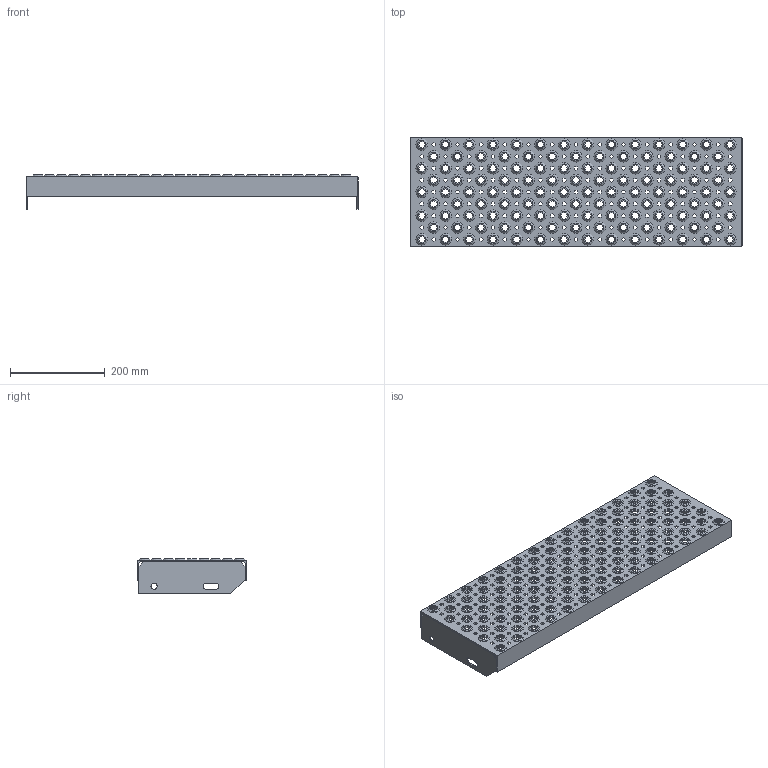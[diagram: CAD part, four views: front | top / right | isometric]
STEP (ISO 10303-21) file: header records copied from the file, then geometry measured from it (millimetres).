
FILE_DESCRIPTION(('Open CASCADE Model'),'2;1');
FILE_NAME('Open CASCADE Shape Model','2020-06-30T11:02:40',('Author'),( 'Open CASCADE'),'Open CASCADE STEP processor 7.2','Open CASCADE 7.2' ,'Unknown');
FILE_SCHEMA(('AUTOMOTIVE_DESIGN { 1 0 10303 214 1 1 1 1 }'));
Length unit declared in the file: millimetre
Products named in the file (5137): Open CASCADE STEP translator 7.2 1; Open CASCADE STEP translator 7.2 2; Open CASCADE STEP translator 7.2 3; Open CASCADE STEP translator 7.2 3.1; Open CASCADE STEP translator 7.2 3.2; Open CASCADE STEP translator 7.2 3.3; Open CASCADE STEP translator 7.2 3.4; Open CASCADE STEP translator 7.2 3.5; Open CASCADE STEP translator 7.2 3.6; Open CASCADE STEP translator 7.2 3.7; Open CASCADE STEP translator 7.2 3.8; Open CASCADE STEP translator 7.2 3.9; Open CASCADE STEP translator 7.2 3.10; Open CASCADE STEP translator 7.2 3.11; Open CASCADE STEP translator 7.2 3.12; Open CASCADE STEP translator 7.2 3.13; Open CASCADE STEP translator 7.2 3.14; Open CASCADE STEP translator 7.2 3.15; Open CASCADE STEP translator 7.2 3.16; Open CASCADE STEP translator 7.2 3.17; Open CASCADE STEP translator 7.2 3.18; Open CASCADE STEP translator 7.2 3.19; Open CASCADE STEP translator 7.2 3.20; Open CASCADE STEP translator 7.2 3.21; Open CASCADE STEP translator 7.2 3.22; Open CASCADE STEP translator 7.2 3.23; Open CASCADE STEP translator 7.2 3.24; Open CASCADE STEP translator 7.2 3.25; Open CASCADE STEP translator 7.2 3.26; Open CASCADE STEP translator 7.2 3.27; Open CASCADE STEP translator 7.2 3.28; Open CASCADE STEP translator 7.2 3.29; Open CASCADE STEP translator 7.2 3.30; Open CASCADE STEP translator 7.2 3.31; Open CASCADE STEP translator 7.2 3.32; Open CASCADE STEP translator 7.2 3.33; Open CASCADE STEP translator 7.2 3.34; Open CASCADE STEP translator 7.2 3.35; Open CASCADE STEP translator 7.2 3.36; Open CASCADE STEP translator 7.2 3.37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
Assembly tree (5134 placements, depth 2):
  Open CASCADE STEP translator 7.2 1
  Open CASCADE STEP translator 7.2 2
  Open CASCADE STEP translator 7.2 3
    Open CASCADE STEP translator 7.2 3.1
    Open CASCADE STEP translator 7.2 3.2
    Open CASCADE STEP translator 7.2 3.3
    Open CASCADE STEP translator 7.2 3.4
    Open CASCADE STEP translator 7.2 3.5
    Open CASCADE STEP translator 7.2 3.6
    Open CASCADE STEP translator 7.2 3.7
    Open CASCADE STEP translator 7.2 3.8
    Open CASCADE STEP translator 7.2 3.9
    Open CASCADE STEP translator 7.2 3.10
    Open CASCADE STEP translator 7.2 3.11
    Open CASCADE STEP translator 7.2 3.12
    Open CASCADE STEP translator 7.2 3.13
    Open CASCADE STEP translator 7.2 3.14
    Open CASCADE STEP translator 7.2 3.15
    Open CASCADE STEP translator 7.2 3.16
    Open CASCADE STEP translator 7.2 3.17
    Open CASCADE STEP translator 7.2 3.18
    Open CASCADE STEP translator 7.2 3.19
    Open CASCADE STEP translator 7.2 3.20
    Open CASCADE STEP translator 7.2 3.21
    Open CASCADE STEP translator 7.2 3.22
    Open CASCADE STEP translator 7.2 3.23
    Open CASCADE STEP translator 7.2 3.24
    Open CASCADE STEP translator 7.2 3.25
    Open CASCADE STEP translator 7.2 3.26
    Open CASCADE STEP translator 7.2 3.27
    Open CASCADE STEP translator 7.2 3.28
    Open CASCADE STEP translator 7.2 3.29
    Open CASCADE STEP translator 7.2 3.30
    Open CASCADE STEP translator 7.2 3.31
    Open CASCADE STEP translator 7.2 3.32
    Open CASCADE STEP translator 7.2 3.33
    Open CASCADE STEP translator 7.2 3.34
    Open CASCADE STEP translator 7.2 3.35
    Open CASCADE STEP translator 7.2 3.36
    Open CASCADE STEP translator 7.2 3.37
    Open CASCADE STEP translator 7.2 3.38
    Open CASCADE STEP translator 7.2 3.39
    Open CASCADE STEP translator 7.2 3.40
    Open CASCADE STEP translator 7.2 3.41
    Open CASCADE STEP translator 7.2 3.42
    Open CASCADE STEP translator 7.2 3.43
    Open CASCADE STEP translator 7.2 3.44
    Open CASCADE STEP translator 7.2 3.45
    Open CASCADE STEP translator 7.2 3.46
    Open CASCADE STEP translator 7.2 3.47
    Open CASCADE STEP translator 7.2 3.48
    Open CASCADE STEP translator 7.2 3.49
    Open CASCADE STEP translator 7.2 3.50
    Open CASCADE STEP translator 7.2 3.51
    Open CASCADE STEP translator 7.2 3.52
    Open CASCADE STEP translator 7.2 3.53
    Open CASCADE STEP translator 7.2 3.54
    Open CASCADE STEP translator 7.2 3.55
    Open CASCADE STEP translator 7.2 3.56
    Open CASCADE STEP translator 7.2 3.57
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Bounding box: 700 x 230 x 73 mm (x, y, z)
Volume: 83595.2 mm3; surface area: 570809.1 mm2
Topology: 2 solids, 5136 shells, 5162 faces, 29400 edges, 29376 vertices
Faces by surface type: plane 5156, cylinder 6
Full cylindrical faces by diameter (mm): 13 x2
Entity records: 586948 total; most frequent: CARTESIAN_POINT 98593, DIRECTION 79450, LINE 58824, VECTOR 58824, ORIENTED_EDGE 29472, PCURVE 29472, DEFINITIONAL_REPRESENTATION 29472, EDGE_CURVE 29400
